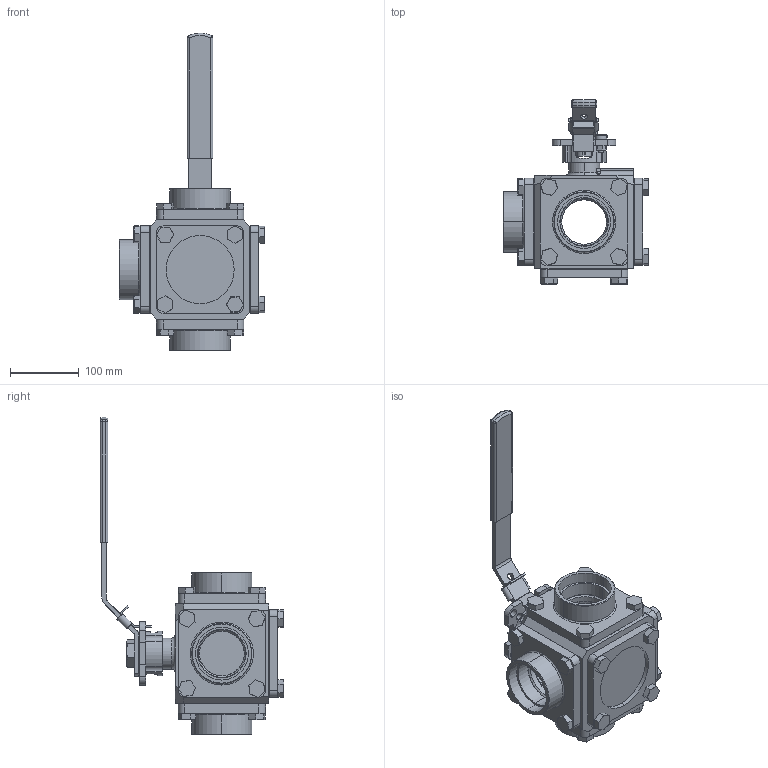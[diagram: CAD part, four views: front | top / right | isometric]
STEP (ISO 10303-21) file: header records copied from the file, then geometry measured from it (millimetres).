
FILE_DESCRIPTION (( 'STEP AP214' ), '1' );
FILE_NAME ('33-SW-0250-XXX.step', '2019-09-30T20:18:29', ( '' ), ( '' ), 'SwSTEP 2.0', 'SolidWorks 2019', '' );
FILE_SCHEMA (( 'AUTOMOTIVE_DESIGN' ));
Length unit declared in the file: inch
Products named in the file (2): 33-SW-0250-XXX
Bounding box: 212.39 x 267.14 x 461.65 mm (x, y, z)
Surface area: 392830.6 mm2 (no closed solid volume)
Topology: 0 solids, 36 shells, 598 faces, 1655 edges, 1079 vertices
Faces by surface type: plane 410, cylinder 140, cone 25, torus 15, bspline 4, sphere 4
Entity records: 27245 total; most frequent: CARTESIAN_POINT 4207, DIRECTION 3222, ORIENTED_EDGE 2846, EDGE_CURVE 1649, VECTOR 1122, LINE 1122, VERTEX_POINT 1079, AXIS2_PLACEMENT_3D 1050
